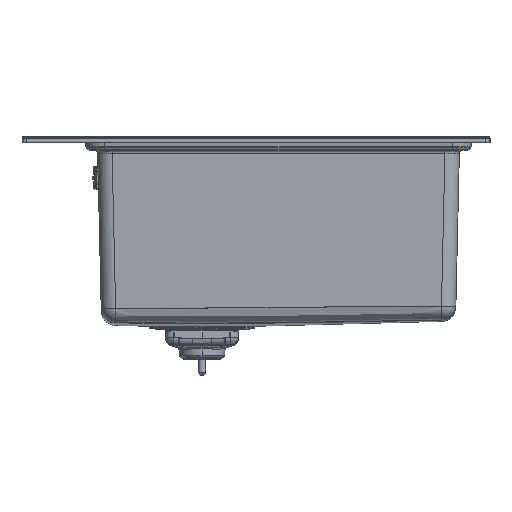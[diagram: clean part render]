
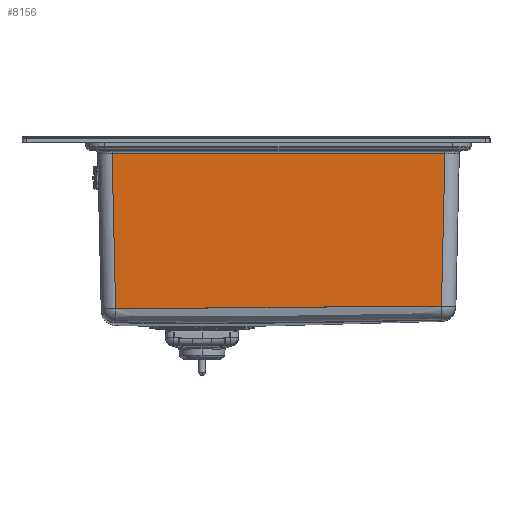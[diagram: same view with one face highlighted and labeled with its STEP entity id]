
A CAD part, left-side view. The second image highlights one B-rep face of the part: STEP entity #8156.
In plain terms, the highlighted planar face has unit normal (-1, 0, -0.023) as drawn and (-1, -0.023, 0) by its records, which use the part's own axes.
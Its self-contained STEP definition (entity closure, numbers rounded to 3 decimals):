
#4952=CARTESIAN_POINT('',(-200.922,-3.443,
184.926));
#4974=DIRECTION('',(0.,0.,-1.));
#4975=VECTOR('',#4974,369.852);
#4976=CARTESIAN_POINT('',(-200.922,-3.443,
184.926));
#4977=LINE('',#4976,#4975);
#4978=DIRECTION('',(-0.023,0.999,0.023));
#4979=VECTOR('',#4978,170.08);
#4980=CARTESIAN_POINT('',(-197.064,-173.436,
181.069));
#4981=LINE('',#4980,#4979);
#4982=CARTESIAN_POINT('',(-196.995,-176.499,
-180.999));
#4983=CARTESIAN_POINT('',(-196.993,-176.564,
-175.682));
#4984=CARTESIAN_POINT('',(-196.991,-176.692,
-164.564));
#4985=CARTESIAN_POINT('',(-196.986,-176.871,
-145.835));
#4986=CARTESIAN_POINT('',(-196.983,-177.007,
-126.869));
#4987=CARTESIAN_POINT('',(-196.981,-177.097,
-107.396));
#4988=CARTESIAN_POINT('',(-196.981,-177.133,
-87.576));
#4989=CARTESIAN_POINT('',(-196.981,-177.112,
-67.883));
#4990=CARTESIAN_POINT('',(-196.983,-177.037,
-48.29));
#4991=CARTESIAN_POINT('',(-196.986,-176.903,
-27.965));
#4992=CARTESIAN_POINT('',(-196.99,-176.711,
-7.001));
#4993=CARTESIAN_POINT('',(-196.996,-176.471,
13.866));
#4994=CARTESIAN_POINT('',(-197.003,-176.141,
38.12));
#4995=CARTESIAN_POINT('',(-197.014,-175.68,
67.27));
#4996=CARTESIAN_POINT('',(-197.027,-175.079,
100.886));
#4997=CARTESIAN_POINT('',(-197.043,-174.37,
137.092));
#4998=CARTESIAN_POINT('',(-197.057,-173.767,
165.805));
#4999=CARTESIAN_POINT('',(-197.064,-173.436,
181.069));
#5001=DIRECTION('',(-0.023,0.999,-0.023));
#5002=VECTOR('',#5001,173.144);
#5003=CARTESIAN_POINT('',(-196.995,-176.499,
-180.999));
#5004=LINE('',#5003,#5002);
#5365=CARTESIAN_POINT('',(-197.064,-173.436,
181.069));
#5367=VERTEX_POINT('',#5365);
#5384=CARTESIAN_POINT('',(-196.995,-176.499,
-180.999));
#5385=VERTEX_POINT('',#5384);
#5534=VERTEX_POINT('',#4952);
#5537=CARTESIAN_POINT('',(-200.922,-3.443,
-184.926));
#5538=VERTEX_POINT('',#5537);
#8143=CARTESIAN_POINT('',(-201.,-0.023,-200.));
#8144=DIRECTION('',(-1.,-0.023,0.));
#8145=DIRECTION('',(0.,0.,-1.));
#8146=AXIS2_PLACEMENT_3D('',#8143,#8144,#8145);
#8147=PLANE('',#8146);
#8149=ORIENTED_EDGE('',*,*,#8148,.F.);
#8150=ORIENTED_EDGE('',*,*,#7955,.F.);
#8151=ORIENTED_EDGE('',*,*,#8134,.F.);
#8153=ORIENTED_EDGE('',*,*,#8152,.T.);
#8154=EDGE_LOOP('',(#8149,#8150,#8151,#8153));
#8155=FACE_OUTER_BOUND('',#8154,.F.);
#8156=ADVANCED_FACE('',(#8155),#8147,.T.);
#5000=B_SPLINE_CURVE_WITH_KNOTS('',3,(#4982,#4983,#4984,#4985,#4986,#4987,#4988,
#4989,#4990,#4991,#4992,#4993,#4994,#4995,#4996,#4997,#4998,#4999),
.UNSPECIFIED.,.F.,.F.,(4,1,1,1,1,1,1,1,1,1,1,1,1,1,1,4),(0.,0.067,
0.133,0.2,0.267,0.333,0.4,
0.467,0.533,0.6,0.667,0.733,
0.8,0.867,0.933,1.),.UNSPECIFIED.);
#7955=EDGE_CURVE('',#5367,#5534,#4981,.T.);
#8134=EDGE_CURVE('',#5385,#5367,#5000,.T.);
#8148=EDGE_CURVE('',#5534,#5538,#4977,.T.);
#8152=EDGE_CURVE('',#5385,#5538,#5004,.T.);
